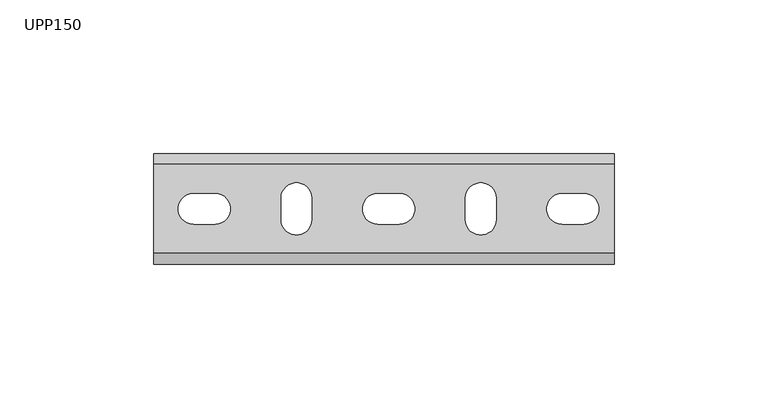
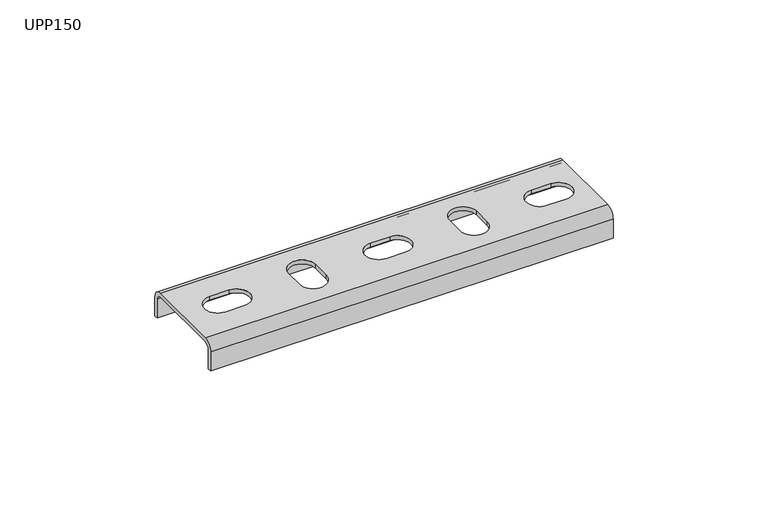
"""IFC4 building model written with IfcOpenShell, lengths in millimetres: proxy geometry, КМ Профиль_Универсальный поддерживающий профиль UPP : UPP150."""

from ifc_helpers import new_model, si_unit, frame, origin, place, context, project, spatial, polyline, circle_curve, source, transform, mapped, element, save
from ifc_brep_helpers import plane_surface, cylinder_surface, revolved_surface, advanced_brep


def upp150_12ecaf3b(model_context):
    return source(origin(), model_context, "Body", "AdvancedBrep", [
        advanced_brep(
        [(0.0, 16.5, -3.5), (0.0, 14.5, -1.5), (0.0, -14.5, -1.5), (0.0, -16.5, -3.5), (0.0, -16.5, -11.0), (0.0, -18.0, -11.0), (0.0, -18.0, -3.5), (0.0, -14.5, 0.0), (0.0, 14.5, 0.0), (0.0, 18.0, -3.5), (0.0, 18.0, -11.0), (0.0, 16.5, -11.0), (150.0, 14.5, -1.5), (150.0, 16.5, -3.5), (150.0, 16.5, -11.0), (150.0, 18.0, -11.0), (150.0, 18.0, -3.5), (150.0, 14.5, 0.0), (150.0, -14.5, 0.0), (150.0, -18.0, -3.5), (150.0, -18.0, -11.0), (150.0, -16.5, -11.0), (150.0, -16.5, -3.5), (150.0, -14.5, -1.5), (80.0, 5.0, -1.5), (73.0, 5.0, -1.5), (73.0, -5.0, -1.5), (80.0, -5.0, -1.5), (140.0, 5.0, -1.5), (133.0, 5.0, -1.5), (133.0, -5.0, -1.5), (140.0, -5.0, -1.5), (101.5, 3.5, -1.5), (101.5, -3.5, -1.5), (111.5, -3.5, -1.5), (111.5, 3.5, -1.5), (41.5, 3.5, -1.5), (41.5, -3.5, -1.5), (51.5, -3.5, -1.5), (51.5, 3.5, -1.5), (20.0, 5.0, -1.5), (13.0, 5.0, -1.5), (13.0, -5.0, -1.5), (20.0, -5.0, -1.5), (73.0, 5.0, 0.0), (80.0, 5.0, 0.0), (80.0, -5.0, 0.0), (73.0, -5.0, 0.0), (133.0, 5.0, 0.0), (140.0, 5.0, 0.0), (140.0, -5.0, 0.0), (133.0, -5.0, 0.0), (101.5, -3.5, 0.0), (101.5, 3.5, 0.0), (111.5, 3.5, 0.0), (111.5, -3.5, 0.0), (41.5, -3.5, 0.0), (41.5, 3.5, 0.0), (51.5, 3.5, 0.0), (51.5, -3.5, 0.0), (13.0, 5.0, 0.0), (20.0, 5.0, 0.0), (20.0, -5.0, 0.0), (13.0, -5.0, 0.0)],
        [
            (0, 1, circle_curve(frame((0.0, 14.5, -3.5), z_axis=(1.0, 0.0, 0.0), x_axis=(0.0, 1.0, 0.0)), 2.0)),
            (1, 2),
            (2, 3, circle_curve(frame((0.0, -14.5, -3.5), z_axis=(1.0, 0.0, 0.0), x_axis=(0.0, 1.0, 0.0)), 2.0)),
            (3, 4),
            (4, 5),
            (5, 6),
            (6, 7, circle_curve(frame((0.0, -14.5, -3.5), z_axis=(-1.0, 0.0, 0.0), x_axis=(0.0, 1.0, 0.0)), 3.5)),
            (7, 8),
            (8, 9, circle_curve(frame((0.0, 14.5, -3.5), z_axis=(-1.0, 0.0, 0.0), x_axis=(0.0, 1.0, 0.0)), 3.5)),
            (9, 10),
            (10, 11),
            (11, 0),
            (12, 13, circle_curve(frame((150.0, 14.5, -3.5), z_axis=(-1.0, 0.0, 0.0), x_axis=(0.0, 1.0, 0.0)), 2.0)),
            (13, 14),
            (14, 15),
            (15, 16),
            (16, 17, circle_curve(frame((150.0, 14.5, -3.5), z_axis=(1.0, 0.0, 0.0), x_axis=(0.0, 1.0, 0.0)), 3.5)),
            (17, 18),
            (18, 19, circle_curve(frame((150.0, -14.5, -3.5), z_axis=(1.0, 0.0, 0.0), x_axis=(0.0, 1.0, 0.0)), 3.5)),
            (19, 20),
            (20, 21),
            (21, 22),
            (22, 23, circle_curve(frame((150.0, -14.5, -3.5), z_axis=(-1.0, 0.0, 0.0), x_axis=(0.0, 1.0, 0.0)), 2.0)),
            (23, 12),
            (0, 13),
            (12, 1),
            (23, 2),
            (24, 25),
            (25, 26, circle_curve(frame((73.0, 0.0, -1.5), z_axis=(0.0, 0.0, 1.0), x_axis=(1.0, 0.0, 0.0)), 5.0)),
            (26, 27),
            (27, 24, circle_curve(frame((80.0, 0.0, -1.5), z_axis=(0.0, 0.0, 1.0), x_axis=(1.0, 0.0, 0.0)), 5.0)),
            (28, 29),
            (29, 30, circle_curve(frame((133.0, 0.0, -1.5), z_axis=(0.0, 0.0, 1.0), x_axis=(1.0, 0.0, 0.0)), 5.0)),
            (30, 31),
            (31, 28, circle_curve(frame((140.0, 0.0, -1.5), z_axis=(0.0, 0.0, 1.0), x_axis=(1.0, 0.0, 0.0)), 5.0)),
            (32, 33),
            (33, 34, circle_curve(frame((106.5, -3.5, -1.5), z_axis=(0.0, 0.0, 1.0), x_axis=(0.0, 1.0, 0.0)), 5.0)),
            (34, 35),
            (35, 32, circle_curve(frame((106.5, 3.5, -1.5), z_axis=(0.0, 0.0, 1.0), x_axis=(0.0, 1.0, 0.0)), 5.0)),
            (36, 37),
            (37, 38, circle_curve(frame((46.5, -3.5, -1.5), z_axis=(0.0, 0.0, 1.0), x_axis=(0.0, 1.0, 0.0)), 5.0)),
            (38, 39),
            (39, 36, circle_curve(frame((46.5, 3.5, -1.5), z_axis=(0.0, 0.0, 1.0), x_axis=(0.0, 1.0, 0.0)), 5.0)),
            (40, 41),
            (41, 42, circle_curve(frame((13.0, 0.0, -1.5), z_axis=(0.0, 0.0, 1.0), x_axis=(1.0, 0.0, 0.0)), 5.0)),
            (42, 43),
            (43, 40, circle_curve(frame((20.0, 0.0, -1.5), z_axis=(0.0, 0.0, 1.0), x_axis=(1.0, 0.0, 0.0)), 5.0)),
            (22, 3),
            (21, 4),
            (20, 5),
            (19, 6),
            (18, 7),
            (17, 8),
            (44, 45),
            (45, 46, circle_curve(frame((80.0, 0.0, 0.0), z_axis=(0.0, 0.0, -1.0), x_axis=(1.0, 0.0, 0.0)), 5.0)),
            (46, 47),
            (47, 44, circle_curve(frame((73.0, 0.0, 0.0), z_axis=(0.0, 0.0, -1.0), x_axis=(1.0, 0.0, 0.0)), 5.0)),
            (48, 49),
            (49, 50, circle_curve(frame((140.0, 0.0, 0.0), z_axis=(0.0, 0.0, -1.0), x_axis=(1.0, 0.0, 0.0)), 5.0)),
            (50, 51),
            (51, 48, circle_curve(frame((133.0, 0.0, 0.0), z_axis=(0.0, 0.0, -1.0), x_axis=(1.0, 0.0, 0.0)), 5.0)),
            (52, 53),
            (53, 54, circle_curve(frame((106.5, 3.5, 0.0), z_axis=(0.0, 0.0, -1.0), x_axis=(0.0, 1.0, 0.0)), 5.0)),
            (54, 55),
            (55, 52, circle_curve(frame((106.5, -3.5, 0.0), z_axis=(0.0, 0.0, -1.0), x_axis=(0.0, 1.0, 0.0)), 5.0)),
            (56, 57),
            (57, 58, circle_curve(frame((46.5, 3.5, 0.0), z_axis=(0.0, 0.0, -1.0), x_axis=(0.0, 1.0, 0.0)), 5.0)),
            (58, 59),
            (59, 56, circle_curve(frame((46.5, -3.5, 0.0), z_axis=(0.0, 0.0, -1.0), x_axis=(0.0, 1.0, 0.0)), 5.0)),
            (60, 61),
            (61, 62, circle_curve(frame((20.0, 0.0, 0.0), z_axis=(0.0, 0.0, -1.0), x_axis=(1.0, 0.0, 0.0)), 5.0)),
            (62, 63),
            (63, 60, circle_curve(frame((13.0, 0.0, 0.0), z_axis=(0.0, 0.0, -1.0), x_axis=(1.0, 0.0, 0.0)), 5.0)),
            (16, 9),
            (15, 10),
            (14, 11),
            (44, 25),
            (24, 45),
            (47, 26),
            (46, 27),
            (48, 29),
            (28, 49),
            (51, 30),
            (50, 31),
            (52, 33),
            (32, 53),
            (55, 34),
            (54, 35),
            (56, 37),
            (36, 57),
            (59, 38),
            (58, 39),
            (60, 41),
            (40, 61),
            (63, 42),
            (62, 43),
        ],
        [
            plane_surface(frame((0.0, 0.0, 0.0), z_axis=(-1.0, 0.0, 0.0), x_axis=(0.0, 0.0, 1.0))),
            plane_surface(frame((150.0, 0.0, 0.0), z_axis=(1.0, 0.0, 0.0), x_axis=(0.0, 0.0, 1.0))),
            revolved_surface(polyline([(150.0, 16.5, -3.5), (0.0, 16.5, -3.5)]), (0.0, 14.5, -3.5), (1.0, 0.0, 0.0)),
            plane_surface(frame((0.0, 14.5, -1.5), z_axis=(0.0, 0.0, -1.0), x_axis=(1.0, 0.0, 0.0))),
            revolved_surface(polyline([(150.0, -12.5, -3.5), (0.0, -12.5, -3.5)]), (0.0, -14.5, -3.5), (1.0, 0.0, 0.0)),
            plane_surface(frame((0.0, -16.5, -3.5), z_axis=(0.0, 1.0, 0.0), x_axis=(1.0, 0.0, 0.0))),
            plane_surface(frame((0.0, -16.5, -11.0), z_axis=(0.0, 0.0, -1.0), x_axis=(1.0, 0.0, 0.0))),
            plane_surface(frame((0.0, -18.0, -11.0), z_axis=(0.0, -1.0, 0.0), x_axis=(1.0, 0.0, 0.0))),
            cylinder_surface(frame((0.0, -14.5, -3.5), z_axis=(-1.0, 0.0, 0.0), x_axis=(0.0, 1.0, 0.0)), 3.5),
            plane_surface(frame((0.0, -14.5, 0.0), z_axis=(0.0, 0.0, 1.0), x_axis=(1.0, 0.0, 0.0))),
            cylinder_surface(frame((0.0, 14.5, -3.5), z_axis=(-1.0, 0.0, 0.0), x_axis=(0.0, 1.0, 0.0)), 3.5),
            plane_surface(frame((0.0, 18.0, -3.5), z_axis=(0.0, 1.0, 0.0), x_axis=(1.0, 0.0, 0.0))),
            plane_surface(frame((0.0, 18.0, -11.0), z_axis=(0.0, 0.0, -1.0), x_axis=(1.0, 0.0, 0.0))),
            plane_surface(frame((0.0, 16.5, -11.0), z_axis=(0.0, -1.0, 0.0), x_axis=(1.0, 0.0, 0.0))),
            plane_surface(frame((80.0, 5.0, 0.0), z_axis=(0.0, -1.0, 0.0), x_axis=(0.0, 0.0, -1.0))),
            revolved_surface(polyline([(78.0, 0.0, 0.0), (78.0, 0.0, -1.5)]), (73.0, 0.0, -1.5), (0.0, 0.0, 1.0)),
            plane_surface(frame((73.0, -5.0, 0.0), z_axis=(0.0, 1.0, 0.0), x_axis=(0.0, 0.0, -1.0))),
            revolved_surface(polyline([(85.0, 0.0, 0.0), (85.0, 0.0, -1.5)]), (80.0, 0.0, -1.5), (0.0, 0.0, 1.0)),
            plane_surface(frame((140.0, 5.0, 0.0), z_axis=(0.0, -1.0, 0.0), x_axis=(0.0, 0.0, -1.0))),
            revolved_surface(polyline([(138.0, 0.0, 0.0), (138.0, 0.0, -1.5)]), (133.0, 0.0, -1.5), (0.0, 0.0, 1.0)),
            plane_surface(frame((133.0, -5.0, 0.0), z_axis=(0.0, 1.0, 0.0), x_axis=(0.0, 0.0, -1.0))),
            revolved_surface(polyline([(145.0, 0.0, 0.0), (145.0, 0.0, -1.5)]), (140.0, 0.0, -1.5), (0.0, 0.0, 1.0)),
            plane_surface(frame((101.5, 3.5, 0.0), z_axis=(1.0, 0.0, 0.0), x_axis=(0.0, 0.0, -1.0))),
            revolved_surface(polyline([(106.5, 1.5, 0.0), (106.5, 1.5, -1.5)]), (106.5, -3.5, -1.5), (0.0, 0.0, 1.0)),
            plane_surface(frame((111.5, -3.5, 0.0), z_axis=(-1.0, 0.0, 0.0), x_axis=(0.0, 0.0, -1.0))),
            revolved_surface(polyline([(106.5, 8.5, 0.0), (106.5, 8.5, -1.5)]), (106.5, 3.5, -1.5), (0.0, 0.0, 1.0)),
            plane_surface(frame((41.5, 3.5, 0.0), z_axis=(1.0, 0.0, 0.0), x_axis=(0.0, 0.0, -1.0))),
            revolved_surface(polyline([(46.5, 1.5, 0.0), (46.5, 1.5, -1.5)]), (46.5, -3.5, -1.5), (0.0, 0.0, 1.0)),
            plane_surface(frame((51.5, -3.5, 0.0), z_axis=(-1.0, 0.0, 0.0), x_axis=(0.0, 0.0, -1.0))),
            revolved_surface(polyline([(46.5, 8.5, 0.0), (46.5, 8.5, -1.5)]), (46.5, 3.5, -1.5), (0.0, 0.0, 1.0)),
            plane_surface(frame((20.0, 5.0, 0.0), z_axis=(0.0, -1.0, 0.0), x_axis=(0.0, 0.0, -1.0))),
            revolved_surface(polyline([(18.0, 0.0, 0.0), (18.0, 0.0, -1.5)]), (13.0, 0.0, -1.5), (0.0, 0.0, 1.0)),
            plane_surface(frame((13.0, -5.0, 0.0), z_axis=(0.0, 1.0, 0.0), x_axis=(0.0, 0.0, -1.0))),
            revolved_surface(polyline([(25.0, 0.0, 0.0), (25.0, 0.0, -1.5)]), (20.0, 0.0, -1.5), (0.0, 0.0, 1.0)),
        ],
        [
            (0, [[1, 2, 3, 4, 5, 6, 7, 8, 9, 10, 11, 12]]),
            (1, [[13, 14, 15, 16, 17, 18, 19, 20, 21, 22, 23, 24]]),
            (2, [[-1, 25, -13, 26]]),
            (3, [[-2, -26, -24, 27], [28, 29, 30, 31], [32, 33, 34, 35], [36, 37, 38, 39], [40, 41, 42, 43], [44, 45, 46, 47]]),
            (4, [[-3, -27, -23, 48]]),
            (5, [[-4, -48, -22, 49]]),
            (6, [[-5, -49, -21, 50]]),
            (7, [[-6, -50, -20, 51]]),
            (8, [[-7, -51, -19, 52]]),
            (9, [[-8, -52, -18, 53], [54, 55, 56, 57], [58, 59, 60, 61], [62, 63, 64, 65], [66, 67, 68, 69], [70, 71, 72, 73]]),
            (10, [[-9, -53, -17, 74]]),
            (11, [[-10, -74, -16, 75]]),
            (12, [[-11, -75, -15, 76]]),
            (13, [[-12, -76, -14, -25]]),
            (14, [[77, -28, 78, -54]]),
            (15, [[-77, -57, 79, -29]]),
            (16, [[-79, -56, 80, -30]]),
            (17, [[-78, -31, -80, -55]]),
            (18, [[81, -32, 82, -58]]),
            (19, [[-81, -61, 83, -33]]),
            (20, [[-83, -60, 84, -34]]),
            (21, [[-82, -35, -84, -59]]),
            (22, [[85, -36, 86, -62]]),
            (23, [[-85, -65, 87, -37]]),
            (24, [[-87, -64, 88, -38]]),
            (25, [[-86, -39, -88, -63]]),
            (26, [[89, -40, 90, -66]]),
            (27, [[-89, -69, 91, -41]]),
            (28, [[-91, -68, 92, -42]]),
            (29, [[-90, -43, -92, -67]]),
            (30, [[93, -44, 94, -70]]),
            (31, [[-93, -73, 95, -45]]),
            (32, [[-95, -72, 96, -46]]),
            (33, [[-94, -47, -96, -71]]),
        ],
    ),
    ])


if __name__ == "__main__":
    model = new_model("IFC4")
    model_context = context("Model", 3, world=origin())
    ifc_project = project(units=[si_unit("LENGTHUNIT", "METRE", prefix="MILLI")], contexts=[model_context])
    site = spatial("IfcSite", under=ifc_project)
    building = spatial("IfcBuilding", under=site)
    placement = place(None, origin())
    upp150_shape = upp150_12ecaf3b(model_context)
    element("IfcBuildingElementProxy", 1, Name="КМ Профиль_Универсальный поддерживающий профиль UPP : UPP150", ObjectType="КМ Профиль_Универсальный поддерживающий профиль UPP : UPP150", at=placement, inside=building, context=model_context, shape_type="MappedRepresentation", body=[
        mapped(upp150_shape, transform((0.0, 0.0, 0.0), x_axis=(1.0, 0.0, 0.0), y_axis=(0.0, 1.0, 0.0), z_axis=(0.0, 0.0, 1.0))),
    ])
    save(model, "model.ifc")
